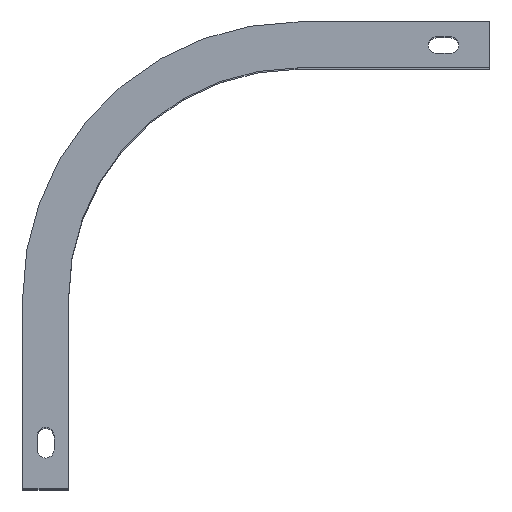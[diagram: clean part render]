
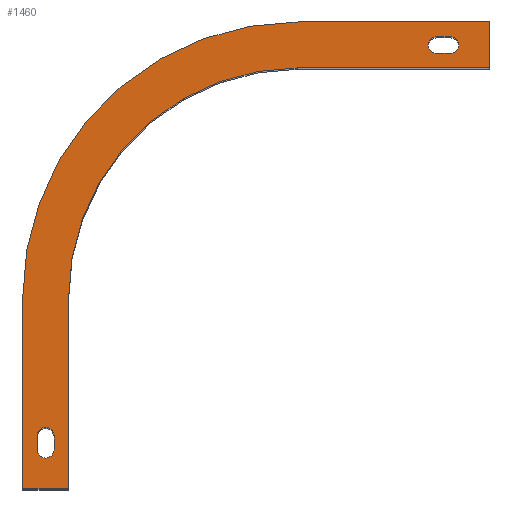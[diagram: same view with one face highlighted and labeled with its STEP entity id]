
A CAD part, top view. The second image highlights one B-rep face of the part: STEP entity #1460.
In plain terms, the highlighted planar face has unit normal (0, 0, 1).
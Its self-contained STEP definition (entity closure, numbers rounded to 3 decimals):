
#10=CARTESIAN_POINT('',(0.,0.,0.));
#20=DIRECTION('',(0.,0.,1.));
#30=DIRECTION('',(1.,0.,0.));
#40=AXIS2_PLACEMENT_3D('',#10,#20,#30);
#50=PLANE('',#40);
#60=CARTESIAN_POINT('',(0.,0.,0.));
#70=DIRECTION('',(0.,0.,1.));
#80=DIRECTION('',(1.,0.,0.));
#90=AXIS2_PLACEMENT_3D('',#60,#70,#80);
#100=CIRCLE('',#90,180.);
#110=CARTESIAN_POINT('',(0.,180.,0.));
#120=VERTEX_POINT('',#110);
#130=CARTESIAN_POINT('',(-180.,0.,0.));
#140=VERTEX_POINT('',#130);
#150=EDGE_CURVE('',#120,#140,#100,.T.);
#160=ORIENTED_EDGE('',*,*,#150,.T.);
#170=CARTESIAN_POINT('',(0.,180.,0.));
#180=DIRECTION('',(1.,0.,0.));
#190=VECTOR('',#180,1.);
#200=LINE('',#170,#190);
#210=CARTESIAN_POINT('',(125.,180.,0.));
#220=VERTEX_POINT('',#210);
#230=EDGE_CURVE('',#120,#220,#200,.T.);
#240=ORIENTED_EDGE('',*,*,#230,.F.);
#250=CARTESIAN_POINT('',(125.,0.,0.));
#260=DIRECTION('',(0.,1.,0.));
#270=VECTOR('',#260,1.);
#280=LINE('',#250,#270);
#290=CARTESIAN_POINT('',(125.,150.,0.));
#300=VERTEX_POINT('',#290);
#310=EDGE_CURVE('',#300,#220,#280,.T.);
#320=ORIENTED_EDGE('',*,*,#310,.T.);
#330=CARTESIAN_POINT('',(0.,150.,0.));
#340=DIRECTION('',(1.,0.,0.));
#350=VECTOR('',#340,1.);
#360=LINE('',#330,#350);
#370=CARTESIAN_POINT('',(0.,150.,0.));
#380=VERTEX_POINT('',#370);
#390=EDGE_CURVE('',#380,#300,#360,.T.);
#400=ORIENTED_EDGE('',*,*,#390,.T.);
#410=CARTESIAN_POINT('',(0.,0.,0.));
#420=DIRECTION('',(0.,0.,1.));
#430=DIRECTION('',(1.,0.,0.));
#440=AXIS2_PLACEMENT_3D('',#410,#420,#430);
#450=CIRCLE('',#440,150.);
#460=CARTESIAN_POINT('',(-150.,0.,0.));
#470=VERTEX_POINT('',#460);
#480=EDGE_CURVE('',#380,#470,#450,.T.);
#490=ORIENTED_EDGE('',*,*,#480,.F.);
#500=CARTESIAN_POINT('',(-150.,0.,0.));
#510=DIRECTION('',(0.,1.,0.));
#520=VECTOR('',#510,1.);
#530=LINE('',#500,#520);
#540=CARTESIAN_POINT('',(-150.,-125.,0.));
#550=VERTEX_POINT('',#540);
#560=EDGE_CURVE('',#550,#470,#530,.T.);
#570=ORIENTED_EDGE('',*,*,#560,.T.);
#580=CARTESIAN_POINT('',(0.,-125.,0.));
#590=DIRECTION('',(1.,0.,0.));
#600=VECTOR('',#590,1.);
#610=LINE('',#580,#600);
#620=CARTESIAN_POINT('',(-180.,-125.,0.));
#630=VERTEX_POINT('',#620);
#640=EDGE_CURVE('',#630,#550,#610,.T.);
#650=ORIENTED_EDGE('',*,*,#640,.T.);
#660=CARTESIAN_POINT('',(-180.,0.,0.));
#670=DIRECTION('',(0.,1.,0.));
#680=VECTOR('',#670,1.);
#690=LINE('',#660,#680);
#700=EDGE_CURVE('',#630,#140,#690,.T.);
#710=ORIENTED_EDGE('',*,*,#700,.F.);
#720=EDGE_LOOP('',(#710,#650,#570,#490,#400,#320,#240,#160));
#730=FACE_OUTER_BOUND('',#720,.T.);
#740=CARTESIAN_POINT('',(0.,170.5,0.));
#750=DIRECTION('',(-1.,0.,0.));
#760=VECTOR('',#750,1.);
#770=LINE('',#740,#760);
#780=CARTESIAN_POINT('',(99.5,170.5,0.));
#790=VERTEX_POINT('',#780);
#800=CARTESIAN_POINT('',(90.5,170.5,0.));
#810=VERTEX_POINT('',#800);
#820=EDGE_CURVE('',#790,#810,#770,.T.);
#830=ORIENTED_EDGE('',*,*,#820,.F.);
#840=CARTESIAN_POINT('',(90.5,165.,0.));
#850=DIRECTION('',(0.,0.,1.));
#860=DIRECTION('',(1.,0.,0.));
#870=AXIS2_PLACEMENT_3D('',#840,#850,#860);
#880=CIRCLE('',#870,5.5);
#890=CARTESIAN_POINT('',(90.5,159.5,0.));
#900=VERTEX_POINT('',#890);
#910=EDGE_CURVE('',#810,#900,#880,.T.);
#920=ORIENTED_EDGE('',*,*,#910,.F.);
#930=CARTESIAN_POINT('',(0.,159.5,0.));
#940=DIRECTION('',(1.,0.,0.));
#950=VECTOR('',#940,1.);
#960=LINE('',#930,#950);
#970=CARTESIAN_POINT('',(99.5,159.5,0.));
#980=VERTEX_POINT('',#970);
#990=EDGE_CURVE('',#900,#980,#960,.T.);
#1000=ORIENTED_EDGE('',*,*,#990,.F.);
#1010=CARTESIAN_POINT('',(99.5,165.,0.));
#1020=DIRECTION('',(0.,0.,-1.));
#1030=DIRECTION('',(1.,0.,0.));
#1040=AXIS2_PLACEMENT_3D('',#1010,#1020,#1030);
#1050=CIRCLE('',#1040,5.5);
#1060=EDGE_CURVE('',#790,#980,#1050,.T.);
#1070=ORIENTED_EDGE('',*,*,#1060,.T.);
#1080=EDGE_LOOP('',(#1070,#1000,#920,#830));
#1090=FACE_BOUND('',#1080,.T.);
#1100=CARTESIAN_POINT('',(-165.,-99.5,0.));
#1110=DIRECTION('',(0.,0.,1.));
#1120=DIRECTION('',(1.,0.,0.));
#1130=AXIS2_PLACEMENT_3D('',#1100,#1110,#1120);
#1140=CIRCLE('',#1130,5.5);
#1150=CARTESIAN_POINT('',(-170.5,-99.5,0.));
#1160=VERTEX_POINT('',#1150);
#1170=CARTESIAN_POINT('',(-159.5,-99.5,0.));
#1180=VERTEX_POINT('',#1170);
#1190=EDGE_CURVE('',#1160,#1180,#1140,.T.);
#1200=ORIENTED_EDGE('',*,*,#1190,.F.);
#1210=CARTESIAN_POINT('',(-159.5,0.,0.));
#1220=DIRECTION('',(0.,1.,0.));
#1230=VECTOR('',#1220,1.);
#1240=LINE('',#1210,#1230);
#1250=CARTESIAN_POINT('',(-159.5,-90.5,0.));
#1260=VERTEX_POINT('',#1250);
#1270=EDGE_CURVE('',#1180,#1260,#1240,.T.);
#1280=ORIENTED_EDGE('',*,*,#1270,.F.);
#1290=CARTESIAN_POINT('',(-165.,-90.5,0.));
#1300=DIRECTION('',(0.,0.,-1.));
#1310=DIRECTION('',(1.,0.,0.));
#1320=AXIS2_PLACEMENT_3D('',#1290,#1300,#1310);
#1330=CIRCLE('',#1320,5.5);
#1340=CARTESIAN_POINT('',(-170.5,-90.5,0.));
#1350=VERTEX_POINT('',#1340);
#1360=EDGE_CURVE('',#1350,#1260,#1330,.T.);
#1370=ORIENTED_EDGE('',*,*,#1360,.T.);
#1380=CARTESIAN_POINT('',(-170.5,0.,0.));
#1390=DIRECTION('',(0.,-1.,0.));
#1400=VECTOR('',#1390,1.);
#1410=LINE('',#1380,#1400);
#1420=EDGE_CURVE('',#1350,#1160,#1410,.T.);
#1430=ORIENTED_EDGE('',*,*,#1420,.F.);
#1440=EDGE_LOOP('',(#1430,#1370,#1280,#1200));
#1450=FACE_BOUND('',#1440,.T.);
#1460=ADVANCED_FACE('',(#730,#1090,#1450),#50,.T.);
